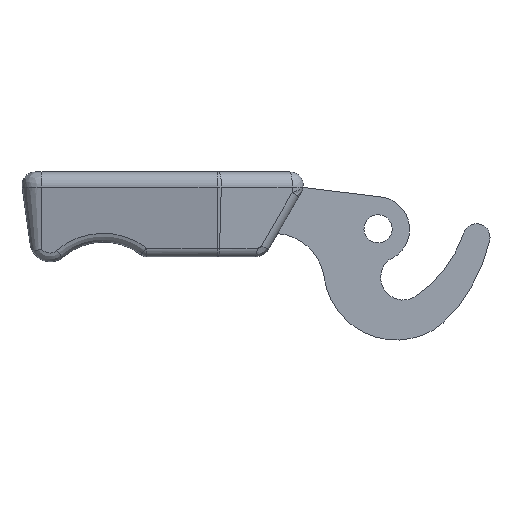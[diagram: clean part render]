
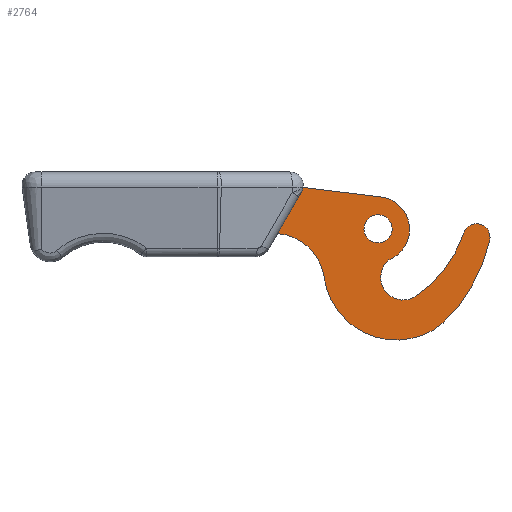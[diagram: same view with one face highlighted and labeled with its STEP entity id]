
A CAD part, front view. The second image highlights one B-rep face of the part: STEP entity #2764.
In plain terms, the highlighted planar face has unit normal (0, -1, 0).
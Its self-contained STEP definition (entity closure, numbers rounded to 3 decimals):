
#2436=CARTESIAN_POINT('',(82.313,-3.,-1.186));
#2437=VERTEX_POINT('',#2436);
#2444=CARTESIAN_POINT('',(75.155,-3.,-13.583));
#2445=VERTEX_POINT('',#2444);
#2446=CARTESIAN_POINT('',(82.313,-3.,-1.186));
#2447=DIRECTION('',(-0.5,0.,-0.866));
#2448=VECTOR('',#2447,14.315);
#2449=LINE('',#2446,#2448);
#2450=EDGE_CURVE('',#2437,#2445,#2449,.T.);
#2502=CARTESIAN_POINT('',(82.7,-3.,0.));
#2503=VERTEX_POINT('',#2502);
#2510=CARTESIAN_POINT('',(82.685,-3.,-0.103));
#2511=VERTEX_POINT('',#2510);
#2512=CARTESIAN_POINT('',(82.7,-3.,0.));
#2513=DIRECTION('',(-0.139,0.,-0.99));
#2514=VECTOR('',#2513,0.104);
#2515=LINE('',#2512,#2514);
#2516=EDGE_CURVE('',#2503,#2511,#2515,.T.);
#2535=CARTESIAN_POINT('',(79.715,-3.,0.314));
#2536=DIRECTION('',(0.99,0.,-0.139));
#2537=DIRECTION('',(0.,1.,0.));
#2538=AXIS2_PLACEMENT_3D('',#2535,#2537,#2536);
#2539=CIRCLE('',#2538,3.);
#2540=EDGE_CURVE('',#2511,#2437,#2539,.T.);
#2663=CARTESIAN_POINT('',(106.645,-3.,-2.94));
#2664=VERTEX_POINT('',#2663);
#2665=CARTESIAN_POINT('',(106.645,-3.,-2.94));
#2666=DIRECTION('',(-0.993,0.,0.122));
#2667=VECTOR('',#2666,24.125);
#2668=LINE('',#2665,#2667);
#2669=EDGE_CURVE('',#2664,#2503,#2668,.T.);
#2680=CARTESIAN_POINT('',(106.485,-3.,-15.591));
#2681=DIRECTION('',(0.993,0.,-0.122));
#2682=DIRECTION('',(0.,-1.,0.));
#2683=AXIS2_PLACEMENT_3D('',#2680,#2682,#2681);
#2684=PLANE('',#2683);
#2685=CARTESIAN_POINT('',(88.872,-3.,-26.281));
#2686=VERTEX_POINT('',#2685);
#2687=CARTESIAN_POINT('',(123.906,-3.,-39.954));
#2688=VERTEX_POINT('',#2687);
#2689=CARTESIAN_POINT('',(110.148,-3.,-23.486));
#2690=DIRECTION('',(-0.991,0.,-0.13));
#2691=DIRECTION('',(0.,-1.,0.));
#2692=AXIS2_PLACEMENT_3D('',#2689,#2691,#2690);
#2693=CIRCLE('',#2692,21.459);
#2694=EDGE_CURVE('',#2686,#2688,#2693,.T.);
#2695=ORIENTED_EDGE('E208',*,*,#2694,.T.);
#2696=CARTESIAN_POINT('',(137.649,-3.,-15.515));
#2697=VERTEX_POINT('',#2696);
#2698=CARTESIAN_POINT('',(89.805,-3.,-4.694));
#2699=DIRECTION('',(0.695,0.,-0.719));
#2700=DIRECTION('',(0.,-1.,0.));
#2701=AXIS2_PLACEMENT_3D('',#2698,#2700,#2699);
#2702=CIRCLE('',#2701,49.052);
#2703=EDGE_CURVE('',#2688,#2697,#2702,.T.);
#2704=ORIENTED_EDGE('E209',*,*,#2703,.T.);
#2705=CARTESIAN_POINT('',(129.904,-3.,-13.763));
#2706=VERTEX_POINT('',#2705);
#2707=CARTESIAN_POINT('',(133.776,-3.,-14.639));
#2708=DIRECTION('',(0.975,0.,-0.221));
#2709=DIRECTION('',(0.,-1.,0.));
#2710=AXIS2_PLACEMENT_3D('',#2707,#2709,#2708);
#2711=CIRCLE('',#2710,3.97);
#2712=EDGE_CURVE('',#2697,#2706,#2711,.T.);
#2713=ORIENTED_EDGE('E210',*,*,#2712,.T.);
#2714=CARTESIAN_POINT('',(115.055,-3.,-32.53));
#2715=VERTEX_POINT('',#2714);
#2716=CARTESIAN_POINT('',(95.745,-3.,-1.994));
#2717=DIRECTION('',(0.945,0.,-0.326));
#2718=DIRECTION('',(0.,1.,0.));
#2719=AXIS2_PLACEMENT_3D('',#2716,#2718,#2717);
#2720=CIRCLE('',#2719,36.129);
#2721=EDGE_CURVE('',#2706,#2715,#2720,.T.);
#2722=ORIENTED_EDGE('E211',*,*,#2721,.T.);
#2723=CARTESIAN_POINT('',(107.986,-3.,-21.35));
#2724=VERTEX_POINT('',#2723);
#2725=CARTESIAN_POINT('',(112.228,-3.,-26.493));
#2726=DIRECTION('',(0.424,0.,-0.906));
#2727=DIRECTION('',(0.,1.,-0.));
#2728=AXIS2_PLACEMENT_3D('',#2725,#2727,#2726);
#2729=CIRCLE('',#2728,6.666);
#2730=EDGE_CURVE('',#2715,#2724,#2729,.T.);
#2731=ORIENTED_EDGE('E212',*,*,#2730,.T.);
#2732=CARTESIAN_POINT('',(104.362,-3.,-12.36));
#2733=DIRECTION('',(0.374,0.,-0.927));
#2734=DIRECTION('',(0.,-1.,0.));
#2735=AXIS2_PLACEMENT_3D('',#2732,#2734,#2733);
#2736=CIRCLE('',#2735,9.693);
#2737=EDGE_CURVE('',#2724,#2664,#2736,.T.);
#2738=ORIENTED_EDGE('E213',*,*,#2737,.T.);
#2739=ORIENTED_EDGE('E213',*,*,#2669,.T.);
#2740=ORIENTED_EDGE('E213',*,*,#2516,.T.);
#2741=ORIENTED_EDGE('E213',*,*,#2540,.T.);
#2742=ORIENTED_EDGE('E213',*,*,#2450,.T.);
#2743=CARTESIAN_POINT('',(75.155,-3.,-13.583));
#2744=CARTESIAN_POINT('',(75.166,-3.,-13.584));
#2745=CARTESIAN_POINT('',(75.176,-3.,-13.584));
#2746=CARTESIAN_POINT('',(87.074,-3.,-14.485));
#2747=CARTESIAN_POINT('',(88.872,-3.,-26.281));
#2748=(BOUNDED_CURVE()B_SPLINE_CURVE(2,(#2743,#2744,#2745,#2746,#2747),.UNSPECIFIED.,.F.,.U.)B_SPLINE_CURVE_WITH_KNOTS((3,2,3),(0.055,0.056,1.),.UNSPECIFIED.)CURVE()GEOMETRIC_REPRESENTATION_ITEM()RATIONAL_B_SPLINE_CURVE((1.,1.,1.,0.783,1.))REPRESENTATION_ITEM(''));
#2749=EDGE_CURVE('',#2445,#2686,#2748,.T.);
#2750=ORIENTED_EDGE('E207',*,*,#2749,.T.);
#2751=EDGE_LOOP('',(#2695,#2704,#2713,#2722,#2731,#2738,#2739,#2740,#2741,#2742,#2750));
#2752=FACE_OUTER_BOUND('',#2751,.T.);
#2753=CARTESIAN_POINT('',(108.899,-3.,-12.687));
#2754=VERTEX_POINT('',#2753);
#2755=CARTESIAN_POINT('',(104.78,-3.,-12.182));
#2756=DIRECTION('',(0.993,0.,-0.122));
#2757=DIRECTION('',(0.,1.,0.));
#2758=AXIS2_PLACEMENT_3D('',#2755,#2757,#2756);
#2759=CIRCLE('',#2758,4.15);
#2760=EDGE_CURVE('',#2754,#2754,#2759,.T.);
#2761=ORIENTED_EDGE('E225',*,*,#2760,.T.);
#2762=EDGE_LOOP('',(#2761));
#2763=FACE_BOUND('',#2762,.T.);
#2764=ADVANCED_FACE('F125',(#2752,#2763),#2684,.T.);
